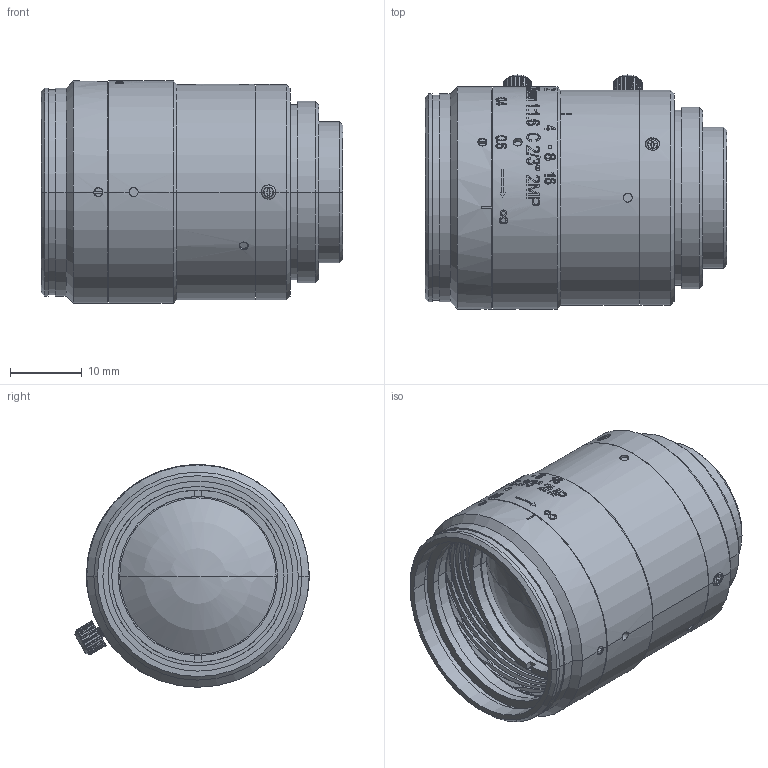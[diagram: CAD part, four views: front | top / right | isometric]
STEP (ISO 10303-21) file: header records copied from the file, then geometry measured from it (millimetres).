
FILE_DESCRIPTION((''),'2;1');
FILE_NAME('OPT-C3516-2M','2018-04-18T17:09:41',('dcsongs'),(''),'CREO PARAMETRIC BY PTC INC, 2017380','CREO PARAMETRIC BY PTC INC, 2017380','');
FILE_SCHEMA(('AUTOMOTIVE_DESIGN { 1 0 10303 214 1 1 1 1 }'));
Length unit declared in the file: millimetre
Products named in the file (1): OPT-C3516-2M
Bounding box: 42.09 x 32.65 x 31.03 mm (x, y, z)
Volume: 22252.5 mm3; surface area: 9356.9 mm2
Topology: 1 solids, 21 shells, 1416 faces, 3985 edges, 2681 vertices
Faces by surface type: bspline 574, plane 413, cylinder 361, cone 49, extrusion 9, torus 6, sphere 4
Entity records: 66451 total; most frequent: CARTESIAN_POINT 33995, ORIENTED_EDGE 7962, DIRECTION 4694, EDGE_CURVE 3981, VERTEX_POINT 2681, B_SPLINE_CURVE_WITH_KNOTS 1736, AXIS2_PLACEMENT_3D 1590, EDGE_LOOP 1522
